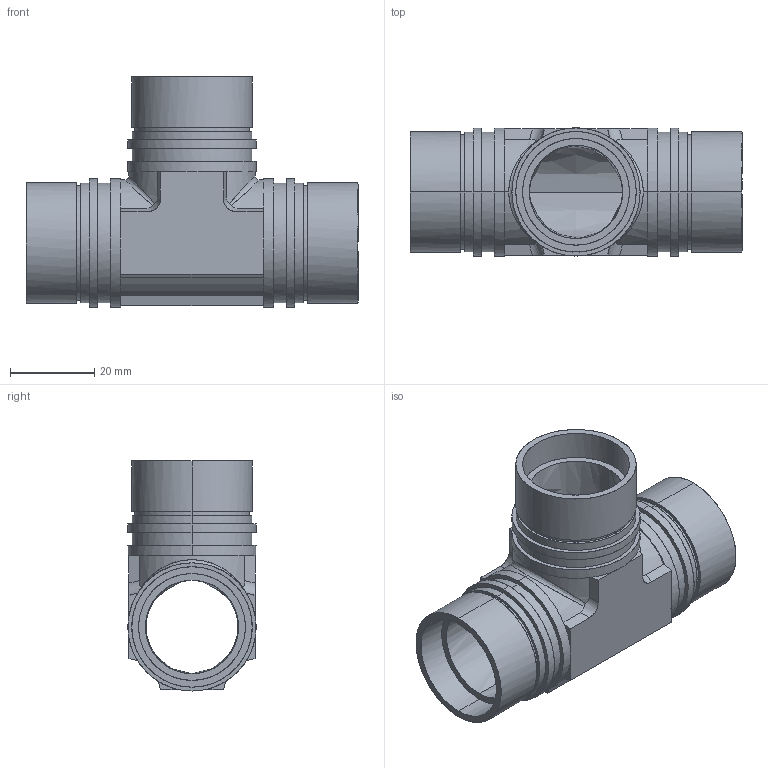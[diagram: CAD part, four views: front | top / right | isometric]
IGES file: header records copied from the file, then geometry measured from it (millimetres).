
Start section: Comment
Global section: file name: 70-25.4UT-P.igs; native system:  By Spatial Corp.; preprocessor: XPlus GENERIC/IGES 3.0; author: Author; organization: Title; date: 20100223.113750; units: inch
Bounding box: 79 x 30.49 x 54.75 mm (x, y, z)
Surface area: 18924.9 mm2 (no closed solid volume)
Topology: 0 solids, 0 shells, 129 faces, 598 edges, 596 vertices
Faces by surface type: bspline 129
